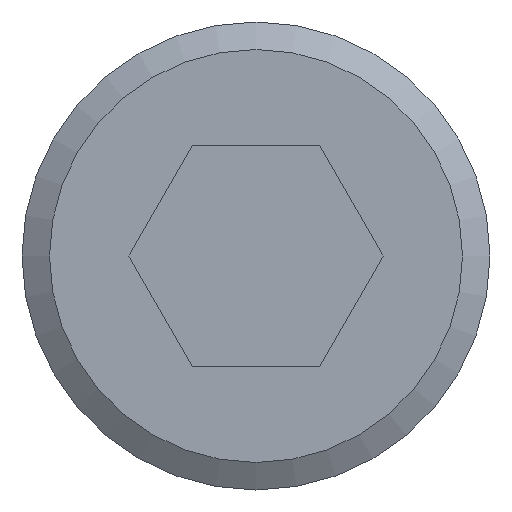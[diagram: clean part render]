
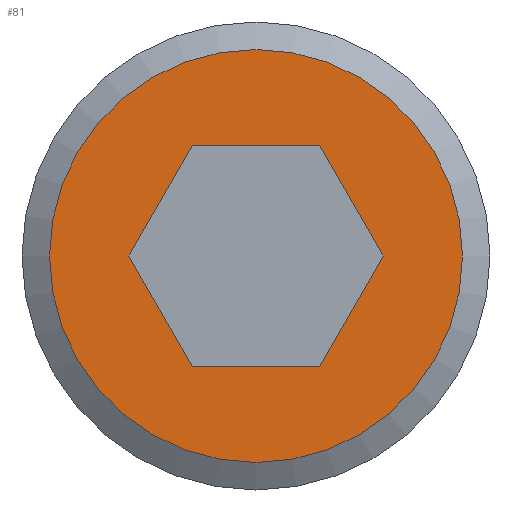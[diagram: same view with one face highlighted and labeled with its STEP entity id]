
A CAD part, left-side view. The second image highlights one B-rep face of the part: STEP entity #81.
In plain terms, the highlighted free-form (B-spline) face has degree [1, 1] with [3, 4] control points.
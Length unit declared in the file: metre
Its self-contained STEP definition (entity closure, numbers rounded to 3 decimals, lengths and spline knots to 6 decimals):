
#81 = ADVANCED_FACE( '', ( #102, #103 ), #104, .T. );
#102 = FACE_BOUND( '', #162, .T. );
#103 = FACE_OUTER_BOUND( '', #163, .T. );
#104 = B_SPLINE_SURFACE_WITH_KNOTS( '', 1, 1, ( ( #164, #165, #166, #167 ), ( #168, #169, #170, #171 ), ( #172, #173, #174, #175 ) ), .UNSPECIFIED., .F., .F., .F., ( 2, 1, 2 ), ( 2, 1, 1, 2 ), ( -0.409091, 0., 1. ), ( -0.287296, 0., 1., 1.287296 ), .UNSPECIFIED. );
#162 = EDGE_LOOP( '', ( #315, #316, #317, #318, #319, #320 ) );
#163 = EDGE_LOOP( '', ( #321 ) );
#164 = CARTESIAN_POINT( '', ( 5.462521, 3.614242, -0.082723 ) );
#165 = CARTESIAN_POINT( '', ( 5.462521, 3.614242, -0.085093 ) );
#166 = CARTESIAN_POINT( '', ( 5.462521, 3.614242, -0.093343 ) );
#167 = CARTESIAN_POINT( '', ( 5.462521, 3.614242, -0.095714 ) );
#168 = CARTESIAN_POINT( '', ( 5.462521, 3.617617, -0.082723 ) );
#169 = CARTESIAN_POINT( '', ( 5.462521, 3.617617, -0.085093 ) );
#170 = CARTESIAN_POINT( '', ( 5.462521, 3.617617, -0.093343 ) );
#171 = CARTESIAN_POINT( '', ( 5.462521, 3.617617, -0.095714 ) );
#172 = CARTESIAN_POINT( '', ( 5.462521, 3.625867, -0.082723 ) );
#173 = CARTESIAN_POINT( '', ( 5.462521, 3.625867, -0.085093 ) );
#174 = CARTESIAN_POINT( '', ( 5.462521, 3.625867, -0.093343 ) );
#175 = CARTESIAN_POINT( '', ( 5.462521, 3.625867, -0.095714 ) );
#315 = ORIENTED_EDGE( '', *, *, #353, .F. );
#316 = ORIENTED_EDGE( '', *, *, #356, .T. );
#317 = ORIENTED_EDGE( '', *, *, #357, .F. );
#318 = ORIENTED_EDGE( '', *, *, #350, .F. );
#319 = ORIENTED_EDGE( '', *, *, #348, .F. );
#320 = ORIENTED_EDGE( '', *, *, #355, .T. );
#321 = ORIENTED_EDGE( '', *, *, #358, .T. );
#348 = EDGE_CURVE( '', #378, #380, #381, .T. );
#350 = EDGE_CURVE( '', #380, #383, #384, .T. );
#353 = EDGE_CURVE( '', #386, #388, #389, .T. );
#355 = EDGE_CURVE( '', #378, #388, #391, .T. );
#356 = EDGE_CURVE( '', #386, #392, #393, .T. );
#357 = EDGE_CURVE( '', #383, #392, #394, .T. );
#358 = EDGE_CURVE( '', #395, #395, #396, .F. );
#378 = VERTEX_POINT( '', #428 );
#380 = VERTEX_POINT( '', #431 );
#381 = LINE( '', #432, #433 );
#383 = VERTEX_POINT( '', #436 );
#384 = LINE( '', #437, #438 );
#386 = VERTEX_POINT( '', #441 );
#388 = VERTEX_POINT( '', #444 );
#389 = LINE( '', #445, #446 );
#391 = B_SPLINE_CURVE_WITH_KNOTS( '', 3, ( #449, #450, #451, #452 ), .UNSPECIFIED., .F., .F., ( 4, 4 ), ( 0., 1. ), .UNSPECIFIED. );
#392 = VERTEX_POINT( '', #453 );
#393 = LINE( '', #454, #455 );
#394 = LINE( '', #456, #457 );
#395 = VERTEX_POINT( '', #458 );
#396 = CIRCLE( '', #459, 0.00375 );
#428 = CARTESIAN_POINT( '', ( 5.462521, 3.622897, -0.091218 ) );
#431 = CARTESIAN_POINT( '', ( 5.462521, 3.620588, -0.091218 ) );
#432 = CARTESIAN_POINT( '', ( 5.462521, 3.621742, -0.091218 ) );
#433 = VECTOR( '', #479, 1. );
#436 = CARTESIAN_POINT( '', ( 5.462521, 3.619433, -0.089218 ) );
#437 = CARTESIAN_POINT( '', ( 5.462521, 3.62001, -0.090218 ) );
#438 = VECTOR( '', #481, 1. );
#441 = CARTESIAN_POINT( '', ( 5.462521, 3.622897, -0.087218 ) );
#444 = CARTESIAN_POINT( '', ( 5.462521, 3.624052, -0.089218 ) );
#445 = CARTESIAN_POINT( '', ( 5.462521, 3.623474, -0.088218 ) );
#446 = VECTOR( '', #484, 1. );
#449 = CARTESIAN_POINT( '', ( 5.462521, 3.622897, -0.091218 ) );
#450 = CARTESIAN_POINT( '', ( 5.462521, 3.623282, -0.090552 ) );
#451 = CARTESIAN_POINT( '', ( 5.462521, 3.623667, -0.089885 ) );
#452 = CARTESIAN_POINT( '', ( 5.462521, 3.624052, -0.089218 ) );
#453 = CARTESIAN_POINT( '', ( 5.462521, 3.620588, -0.087218 ) );
#454 = CARTESIAN_POINT( '', ( 5.462521, 3.620055, -0.087218 ) );
#455 = VECTOR( '', #486, 1. );
#456 = CARTESIAN_POINT( '', ( 5.462521, 3.62001, -0.088218 ) );
#457 = VECTOR( '', #487, 1. );
#458 = CARTESIAN_POINT( '', ( 5.462521, 3.625492, -0.089218 ) );
#459 = AXIS2_PLACEMENT_3D( '', #488, #489, #490 );
#479 = DIRECTION( '', ( 0., -1., 0. ) );
#481 = DIRECTION( '', ( 0., -0.5, 0.866 ) );
#484 = DIRECTION( '', ( 0., 0.5, -0.866 ) );
#486 = DIRECTION( '', ( 0., -1., 0. ) );
#487 = DIRECTION( '', ( 0., 0.5, 0.866 ) );
#488 = CARTESIAN_POINT( '', ( 5.462521, 3.621742, -0.089218 ) );
#489 = DIRECTION( '', ( 1., 0., 0. ) );
#490 = DIRECTION( '', ( 0., 0., -1. ) );
